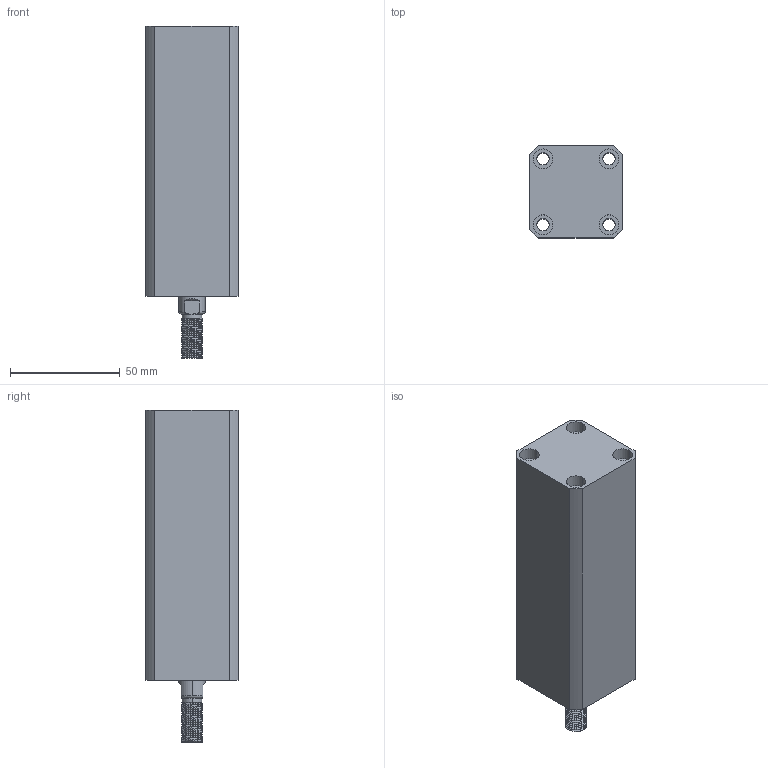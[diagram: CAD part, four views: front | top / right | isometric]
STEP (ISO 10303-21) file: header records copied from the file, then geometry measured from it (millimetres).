
FILE_DESCRIPTION (( 'STEP AP214' ), '1' );
FILE_NAME ('chtb-sd20x80w_asm.STEP', '2018-05-16T09:51:23', ( 'Windows' ), ( 'Microsoft' ), 'SwSTEP 2.0', 'SolidWorks 2015', '' );
FILE_SCHEMA (( 'AUTOMOTIVE_DESIGN' ));
Length unit declared in the file: millimetre
Products named in the file (4): QG; CHTB-SD20X80WHSG; CHTB-SD20X80NBT; chtb-sd20x80w_asm
Assembly tree (3 placements, depth 2):
  chtb-sd20x80w_asm
    CHTB-SD20X80NBT
    CHTB-SD20X80WHSG
    QG
Bounding box: 42 x 42 x 151 mm (x, y, z)
Volume: 182699.6 mm3; surface area: 51645.5 mm2
Topology: 3 solids, 3 shells, 234 faces, 624 edges, 415 vertices
Faces by surface type: cylinder 139, plane 40, torus 25, bspline 21, cone 9
Entity records: 13734 total; most frequent: CARTESIAN_POINT 8172, ORIENTED_EDGE 1240, DIRECTION 1039, EDGE_CURVE 620, AXIS2_PLACEMENT_3D 431, VERTEX_POINT 415, EDGE_LOOP 271, FACE_OUTER_BOUND 234
